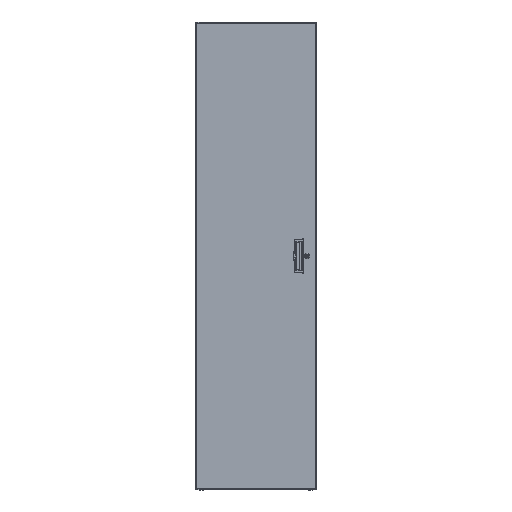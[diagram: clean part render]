
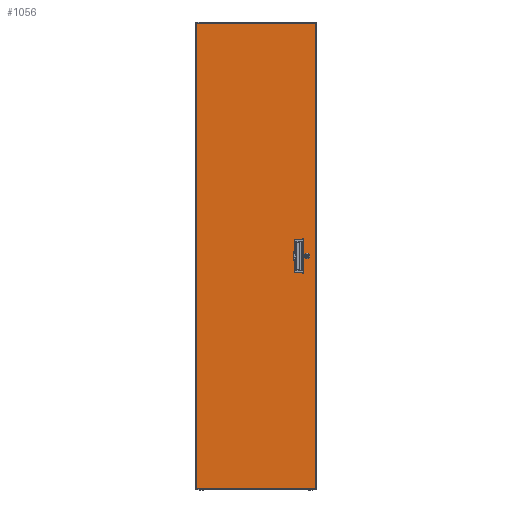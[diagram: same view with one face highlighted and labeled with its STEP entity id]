
A CAD part, top view. The second image highlights one B-rep face of the part: STEP entity #1056.
In plain terms, the highlighted planar face has unit normal (0, 0, 1).
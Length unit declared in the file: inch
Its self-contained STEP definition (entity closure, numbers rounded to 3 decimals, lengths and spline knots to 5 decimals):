
#1=DIRECTION('',(0.,-1.,0.));
#2=VECTOR('',#1,5.2);
#3=CARTESIAN_POINT('',(7.8275,2.6,0.));
#4=LINE('',#3,#2);
#5=DIRECTION('',(1.,0.,0.));
#6=VECTOR('',#5,1.21);
#7=CARTESIAN_POINT('',(6.6175,2.6,0.));
#8=LINE('',#7,#6);
#9=DIRECTION('',(0.,1.,0.));
#10=VECTOR('',#9,5.2);
#11=CARTESIAN_POINT('',(6.6175,-2.6,0.));
#12=LINE('',#11,#10);
#13=DIRECTION('',(-1.,0.,0.));
#14=VECTOR('',#13,1.21);
#15=CARTESIAN_POINT('',(7.8275,-2.6,0.));
#16=LINE('',#15,#14);
#17=CARTESIAN_POINT('',(8.5975,0.,0.));
#18=DIRECTION('',(0.,0.,1.));
#19=DIRECTION('',(0.521,-0.853,0.));
#20=AXIS2_PLACEMENT_3D('',#17,#18,#19);
#22=DIRECTION('',(1.,0.,0.));
#23=VECTOR('',#22,0.39102);
#24=CARTESIAN_POINT('',(8.40199,0.32,0.));
#25=LINE('',#24,#23);
#26=CARTESIAN_POINT('',(8.5975,0.,0.));
#27=DIRECTION('',(0.,0.,1.));
#28=DIRECTION('',(-0.521,0.853,0.));
#29=AXIS2_PLACEMENT_3D('',#26,#27,#28);
#31=DIRECTION('',(-1.,0.,0.));
#32=VECTOR('',#31,0.39102);
#33=CARTESIAN_POINT('',(8.79301,-0.32,0.));
#34=LINE('',#33,#32);
#46=DIRECTION('',(0.,-1.,0.));
#47=VECTOR('',#46,78.376);
#48=CARTESIAN_POINT('',(10.0785,39.188,0.));
#49=LINE('',#48,#47);
#150=DIRECTION('',(1.,0.,0.));
#151=VECTOR('',#150,20.157);
#152=CARTESIAN_POINT('',(-10.0785,39.188,0.));
#153=LINE('',#152,#151);
#173=DIRECTION('',(0.,1.,0.));
#174=VECTOR('',#173,78.376);
#175=CARTESIAN_POINT('',(-10.0785,-39.188,0.));
#176=LINE('',#175,#174);
#221=DIRECTION('',(-1.,0.,0.));
#222=VECTOR('',#221,20.157);
#223=CARTESIAN_POINT('',(10.0785,-39.188,0.));
#224=LINE('',#223,#222);
#821=CARTESIAN_POINT('',(-10.0785,39.188,0.));
#822=CARTESIAN_POINT('',(10.0785,39.188,0.));
#823=VERTEX_POINT('',#821);
#824=VERTEX_POINT('',#822);
#837=CARTESIAN_POINT('',(10.0785,-39.188,0.));
#838=CARTESIAN_POINT('',(-10.0785,-39.188,0.));
#839=VERTEX_POINT('',#837);
#840=VERTEX_POINT('',#838);
#909=CARTESIAN_POINT('',(7.8275,2.6,0.));
#910=CARTESIAN_POINT('',(7.8275,-2.6,0.));
#911=VERTEX_POINT('',#909);
#912=VERTEX_POINT('',#910);
#913=CARTESIAN_POINT('',(6.6175,-2.6,0.));
#914=VERTEX_POINT('',#913);
#915=CARTESIAN_POINT('',(6.6175,2.6,0.));
#916=VERTEX_POINT('',#915);
#917=CARTESIAN_POINT('',(8.79301,-0.32,0.));
#918=CARTESIAN_POINT('',(8.79301,0.32,0.));
#919=VERTEX_POINT('',#917);
#920=VERTEX_POINT('',#918);
#921=CARTESIAN_POINT('',(8.40199,-0.32,0.));
#922=VERTEX_POINT('',#921);
#923=CARTESIAN_POINT('',(8.40199,0.32,0.));
#924=VERTEX_POINT('',#923);
#1021=CARTESIAN_POINT('',(0.,0.,0.));
#1022=DIRECTION('',(0.,0.,1.));
#1023=DIRECTION('',(1.,0.,0.));
#1024=AXIS2_PLACEMENT_3D('',#1021,#1022,#1023);
#1025=PLANE('',#1024);
#1027=ORIENTED_EDGE('',*,*,#1026,.T.);
#1029=ORIENTED_EDGE('',*,*,#1028,.T.);
#1031=ORIENTED_EDGE('',*,*,#1030,.T.);
#1033=ORIENTED_EDGE('',*,*,#1032,.T.);
#1034=EDGE_LOOP('',(#1027,#1029,#1031,#1033));
#1035=FACE_OUTER_BOUND('',#1034,.F.);
#1037=ORIENTED_EDGE('',*,*,#1036,.F.);
#1039=ORIENTED_EDGE('',*,*,#1038,.F.);
#1041=ORIENTED_EDGE('',*,*,#1040,.F.);
#1043=ORIENTED_EDGE('',*,*,#1042,.F.);
#1044=EDGE_LOOP('',(#1037,#1039,#1041,#1043));
#1045=FACE_BOUND('',#1044,.F.);
#1047=ORIENTED_EDGE('',*,*,#1046,.T.);
#1049=ORIENTED_EDGE('',*,*,#1048,.F.);
#1051=ORIENTED_EDGE('',*,*,#1050,.T.);
#1053=ORIENTED_EDGE('',*,*,#1052,.F.);
#1054=EDGE_LOOP('',(#1047,#1049,#1051,#1053));
#1055=FACE_BOUND('',#1054,.F.);
#1056=ADVANCED_FACE('',(#1035,#1045,#1055),#1025,.T.);
#21=CIRCLE('',#20,0.375);
#30=CIRCLE('',#29,0.375);
#1026=EDGE_CURVE('',#824,#839,#49,.T.);
#1028=EDGE_CURVE('',#839,#840,#224,.T.);
#1030=EDGE_CURVE('',#840,#823,#176,.T.);
#1032=EDGE_CURVE('',#823,#824,#153,.T.);
#1036=EDGE_CURVE('',#911,#912,#4,.T.);
#1038=EDGE_CURVE('',#916,#911,#8,.T.);
#1040=EDGE_CURVE('',#914,#916,#12,.T.);
#1042=EDGE_CURVE('',#912,#914,#16,.T.);
#1046=EDGE_CURVE('',#919,#920,#21,.T.);
#1048=EDGE_CURVE('',#924,#920,#25,.T.);
#1050=EDGE_CURVE('',#924,#922,#30,.T.);
#1052=EDGE_CURVE('',#919,#922,#34,.T.);
